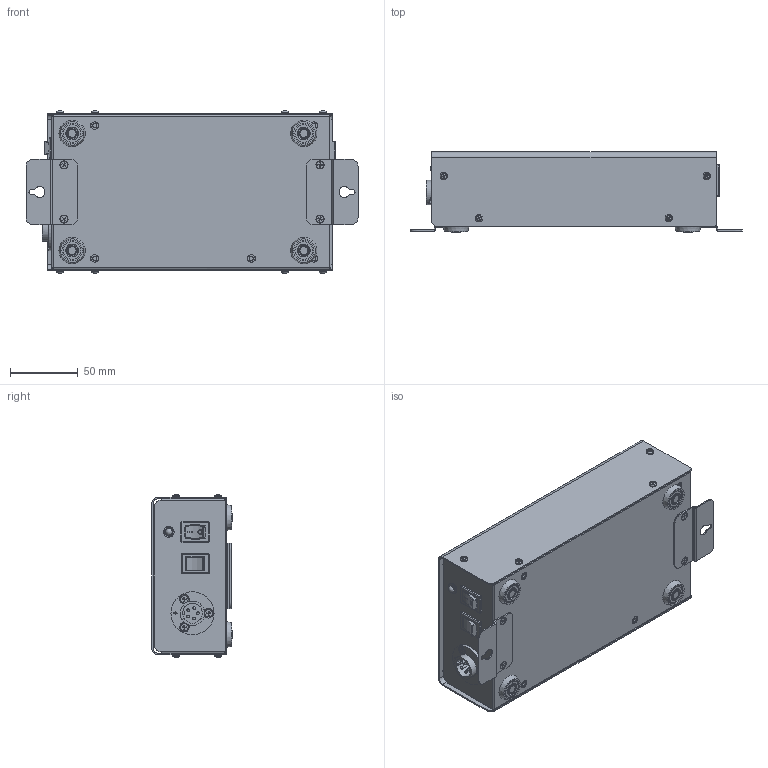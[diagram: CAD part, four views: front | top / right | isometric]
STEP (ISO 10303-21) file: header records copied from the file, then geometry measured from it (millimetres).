
FILE_DESCRIPTION (( 'STEP AP214' ), '1' );
FILE_NAME ('CLC-80,BLC-80.STEP', '2026-02-02T08:49:54', ( '' ), ( '' ), 'SwSTEP 2.0', 'SolidWorks 2024', '' );
FILE_SCHEMA (( 'AUTOMOTIVE_DESIGN' ));
Length unit declared in the file: millimetre
Products named in the file (1): CLC-80,BLC-80
Bounding box: 245 x 59.29 x 119.95 mm (x, y, z)
Volume: 110379.3 mm3; surface area: 205429.9 mm2
Topology: 42 solids, 42 shells, 1842 faces, 4659 edges, 3011 vertices
Faces by surface type: plane 1109, cylinder 358, bspline 212, cone 92, torus 41, sphere 30
Full cylindrical faces by diameter (mm): 1.27 x2, 2 x5, 2.387 x7, 2.64 x8, 2.675 x7, 3 x8, 3.15 x9, 3.3 x3, 3.6 x8, 4 x8, 4.4 x4, 4.6 x4, 4.8 x5, 5 x1, 5.1 x1, 5.4 x5, 5.5 x20, 5.6 x4, 5.8 x1, 6 x5, 6.3 x1, 6.9 x4, 7 x1, 7.9 x1, 8.1 x4, 13 x4, 14.6 x1, 15 x4, 15.8 x4, 16 x1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
Entity records: 83448 total; most frequent: CARTESIAN_POINT 20588, ORIENTED_EDGE 8600, DIRECTION 8058, EDGE_CURVE 4300, VERTEX_POINT 2933, LINE 2824, VECTOR 2824, AXIS2_PLACEMENT_3D 2617
